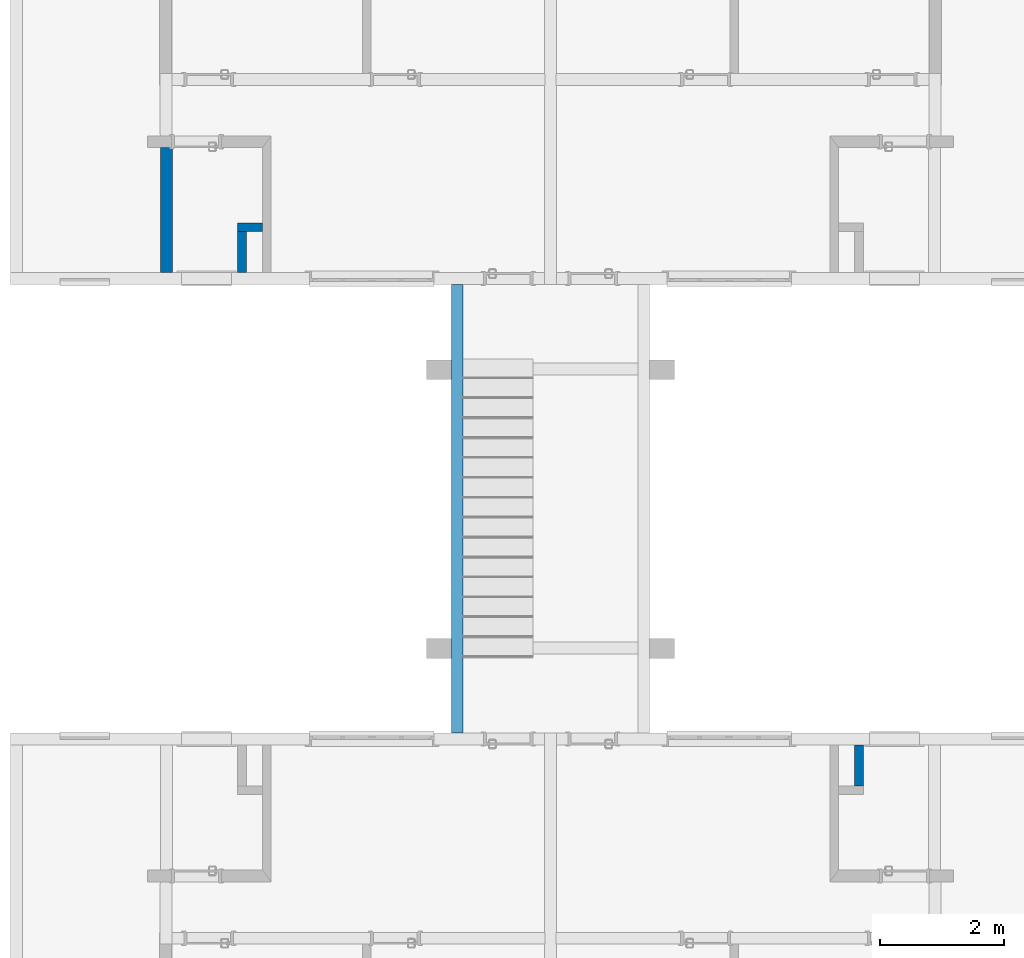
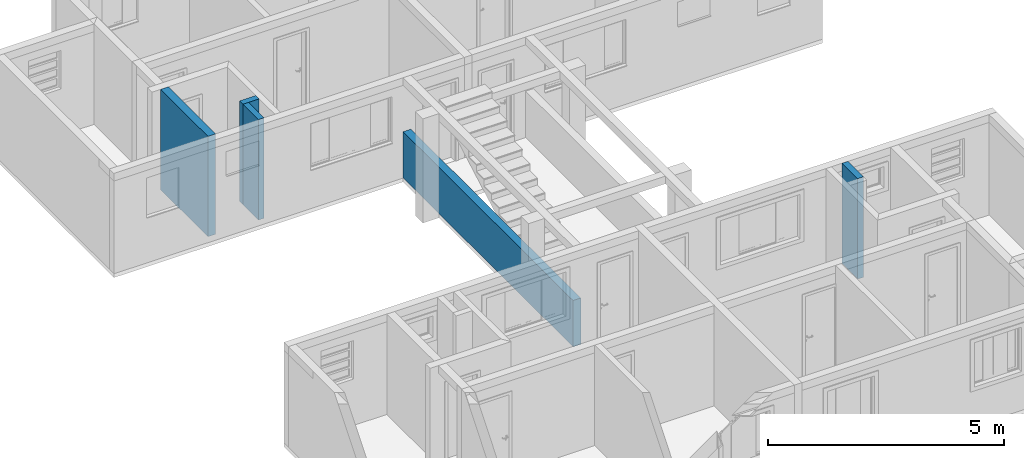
# One storey, part 22 of 43: 5 walls.
"""IFC2X3 building model written with IfcOpenShell, lengths in millimetres."""

from ifc_helpers import new_model, entity, si_unit, converted_unit, derived_unit, money_unit, direction, frame, origin_with_axes, place, context, subcontext, project, spatial, polyline, outline, extrude, material, layer, layer_set, layer_usage, type_object, element, save


model = new_model("IFC2X3")

# Units and contexts
model_context = context("Model", 3, precision=0.01, world=origin_with_axes(), true_north=direction((0.0, 1.0)))
body_context = subcontext(model_context, "Body", "Model", "MODEL_VIEW")
ifc_project = project(units=[si_unit("LENGTHUNIT", "METRE", prefix="MILLI"), si_unit("AREAUNIT", "SQUARE_METRE"), si_unit("VOLUMEUNIT", "CUBIC_METRE"), converted_unit("PLANEANGLEUNIT", "DEGREE", entity("IfcPlaneAngleMeasure", 0.0174532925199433), si_unit("PLANEANGLEUNIT", "RADIAN"), dimensions=[0, 0, 0, 0, 0, 0, 0]), money_unit("USD"), converted_unit("TIMEUNIT", "Year", entity("IfcTimeMeasure", 31557600.0), si_unit("TIMEUNIT", "SECOND"), dimensions=[0, 0, 1, 0, 0, 0, 0]), si_unit("MASSUNIT", "GRAM", prefix="KILO"), si_unit("THERMODYNAMICTEMPERATUREUNIT", "DEGREE_CELSIUS"), si_unit("LUMINOUSINTENSITYUNIT", "LUMEN"), si_unit("ENERGYUNIT", "JOULE", prefix="MEGA"), derived_unit("THERMALCONDUCTANCEUNIT", [(si_unit("POWERUNIT", "WATT"), 1), (si_unit("LENGTHUNIT", "METRE"), -1), (si_unit("THERMODYNAMICTEMPERATUREUNIT", "KELVIN"), -1)]), derived_unit("SPECIFICHEATCAPACITYUNIT", [(si_unit("ENERGYUNIT", "JOULE"), 1), (si_unit("MASSUNIT", "GRAM", prefix="KILO"), -1), (si_unit("THERMODYNAMICTEMPERATUREUNIT", "KELVIN"), -1)]), derived_unit("MASSDENSITYUNIT", [(si_unit("MASSUNIT", "GRAM", prefix="KILO"), 1), (si_unit("VOLUMEUNIT", "CUBIC_METRE"), -1)])], contexts=[model_context])

# Site, building, storey
site_placement = place(None, origin_with_axes())
site = spatial("IfcSite", under=ifc_project, at=site_placement, Name="Local", CompositionType="ELEMENT")
building_placement = place(site_placement, origin_with_axes())
building = spatial("IfcBuilding", under=site, at=building_placement, Name="Construção", CompositionType="ELEMENT")
storey_placement = place(building_placement, origin_with_axes())
storey = spatial("IfcBuildingStorey", under=building, at=storey_placement, Name="Pavimento Tipo", CompositionType="ELEMENT", Elevation=0.0)

# Walls
ifc_material_1 = material(Name="Concreto - Estrutural")
ifc_layer_1 = layer(ifc_material_1, 190.0, ventilated="UNKNOWN")
ifc_layer_set_1 = layer_set([ifc_layer_1], Name="Concreto - Estrutural 190")
ifc_layer_usage_1 = layer_usage(ifc_layer_set_1, "AXIS2", "POSITIVE", -190.0)
wall_type_1 = type_object("IfcWallType", Name="Concreto - Estrutural 190", PredefinedType="NOTDEFINED")
wall_1_placement = place(storey_placement, frame((57529.75041745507, 5832.461520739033, 0.0), z_axis=(0.0, 0.0, 1.0), x_axis=(0.0, 1.0, 0.0)))
element("IfcWallStandardCase", 1, at=wall_1_placement, inside=storey, type_object=wall_type_1, material=ifc_layer_usage_1, Name="Apartamento 2 - Parede-009", context=body_context, shape_type="SweptSolid", body=[
    extrude(outline(polyline([(0.0, -189.9999999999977), (2010.0, -189.9999999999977), (2010.0, 0.0), (0.0, 0.0), (0.0, -189.9999999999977)])), origin_with_axes(), (0.0, 0.0, 1.0), 2600.0),
])
ifc_layer_usage_2 = layer_usage(ifc_layer_set_1, "AXIS2", "NEGATIVE", 190.0)
wall_2_placement = place(storey_placement, frame((62202.434598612, 5642.461520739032, 0.0), z_axis=(0.0, 0.0, 1.0), x_axis=(0.0, -1.0, 0.0)))
element("IfcWallStandardCase", 2, at=wall_2_placement, inside=storey, type_object=wall_type_1, material=ifc_layer_usage_2, Name="NúcleoParede-003", context=body_context, shape_type="SweptSolid", body=[
    extrude(outline(polyline([(0.0, 0.0), (7210.0, 0.0), (7210.0, 189.9999999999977), (0.0, 189.9999999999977), (0.0, 0.0)])), origin_with_axes(), (0.0, 0.0, 1.0), 1200.0),
])
ifc_material_2 = material(Name="Concreto")
ifc_layer_2 = layer(ifc_material_2, 140.0, ventilated="UNKNOWN")
ifc_layer_set_2 = layer_set([ifc_layer_2], Name="Concreto 140")
ifc_layer_usage_3 = layer_usage(ifc_layer_set_2, "AXIS2", "POSITIVE", 0.0)
wall_type_2 = type_object("IfcWallType", Name="Concreto 140", PredefinedType="NOTDEFINED")
wall_3_placement = place(storey_placement, frame((58907.434598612, 5832.461520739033, 0.0), z_axis=(0.0, 0.0, 1.0), x_axis=(0.0, 1.0, 0.0)))
element("IfcWallStandardCase", 3, at=wall_3_placement, inside=storey, type_object=wall_type_2, material=ifc_layer_usage_3, Name="Apartamento 2 - Parede-012", context=body_context, shape_type="SweptSolid", body=[
    extrude(outline(polyline([(0.0, 0.0), (660.0000000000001, 0.0), (660.0000000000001, 140.0000000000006), (0.0, 140.0000000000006), (0.0, 0.0)])), origin_with_axes(), (0.0, 0.0, 1.0), 2600.0),
])
ifc_layer_usage_4 = layer_usage(ifc_layer_set_2, "AXIS2", "POSITIVE", 0.0)
wall_4_placement = place(storey_placement, frame((58767.434598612, 6492.461520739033, 0.0), z_axis=(0.0, 0.0, 1.0), x_axis=(1.0, 0.0, 0.0)))
element("IfcWallStandardCase", 4, at=wall_4_placement, inside=storey, type_object=wall_type_2, material=ifc_layer_usage_4, Name="Apartamento 2 - Parede-011", context=body_context, shape_type="SweptSolid", body=[
    extrude(outline(polyline([(0.0, 0.0), (400.0000000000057, 0.0), (400.0000000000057, 139.9999999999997), (0.0, 139.9999999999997), (0.0, 0.0)])), origin_with_axes(), (0.0, 0.0, 1.0), 2600.0),
])
ifc_layer_usage_5 = layer_usage(ifc_layer_set_2, "AXIS2", "POSITIVE", 0.0)
wall_5_placement = place(storey_placement, frame((68686.96486497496, -1757.538479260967, 0.0), z_axis=(0.0, 0.0, 1.0), x_axis=(0.0, -1.0, 0.0)))
element("IfcWallStandardCase", 5, at=wall_5_placement, inside=storey, type_object=wall_type_2, material=ifc_layer_usage_5, Name="Apartamento 4 - Parede-012", context=body_context, shape_type="SweptSolid", body=[
    extrude(outline(polyline([(0.0, 0.0), (660.0000000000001, 0.0), (660.0000000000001, 140.0000000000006), (0.0, 140.0000000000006), (0.0, 0.0)])), origin_with_axes(), (0.0, 0.0, 1.0), 2600.0),
])

save(model, "model.ifc")
